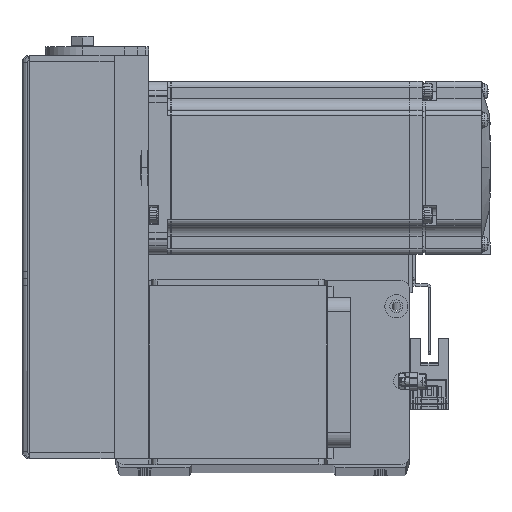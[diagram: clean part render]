
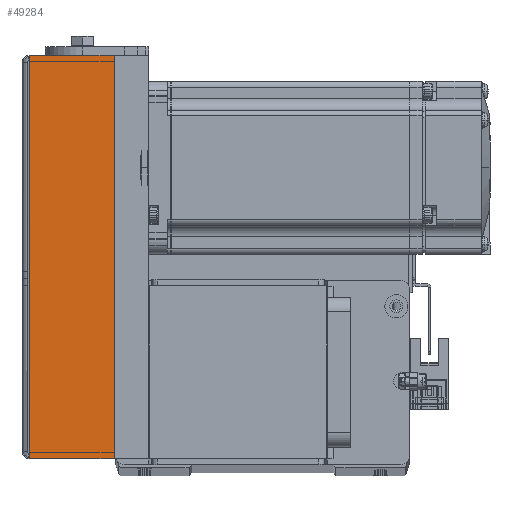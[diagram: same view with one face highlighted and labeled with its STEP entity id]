
A CAD part, top view. The second image highlights one B-rep face of the part: STEP entity #49284.
In plain terms, the highlighted planar face has unit normal (0, 0, 1).
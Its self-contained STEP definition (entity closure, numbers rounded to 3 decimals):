
#986 = VECTOR ( 'NONE', #38560, 1000. ) ;
#2824 = CARTESIAN_POINT ( 'NONE',  ( -70., 0., 31. ) ) ;
#4136 = LINE ( 'NONE', #36290, #4525 ) ;
#4525 = VECTOR ( 'NONE', #16264, 1000. ) ;
#4741 = FACE_OUTER_BOUND ( 'NONE', #24643, .T. ) ;
#7594 = LINE ( 'NONE', #23927, #35688 ) ;
#8495 = ORIENTED_EDGE ( 'NONE', *, *, #28728, .F. ) ;
#9259 = VERTEX_POINT ( 'NONE', #38727 ) ;
#11446 = EDGE_CURVE ( 'NONE', #45508, #22104, #33556, .T. ) ;
#11869 = CARTESIAN_POINT ( 'NONE',  ( 0., -30., 31. ) ) ;
#15848 = DIRECTION ( 'NONE',  ( 0., -1., 0. ) ) ;
#16264 = DIRECTION ( 'NONE',  ( 0., 1., 0. ) ) ;
#16876 = PLANE ( 'NONE',  #22251 ) ;
#17039 = ORIENTED_EDGE ( 'NONE', *, *, #26240, .F. ) ;
#19561 = LINE ( 'NONE', #27734, #43990 ) ;
#20568 = DIRECTION ( 'NONE',  ( 0., 0., -1. ) ) ;
#21980 = ORIENTED_EDGE ( 'NONE', *, *, #28709, .T. ) ;
#22104 = VERTEX_POINT ( 'NONE', #2824 ) ;
#22251 = AXIS2_PLACEMENT_3D ( 'NONE', #11869, #20568, #15848 ) ;
#22492 = CARTESIAN_POINT ( 'NONE',  ( 0., 0., 31. ) ) ;
#23927 = CARTESIAN_POINT ( 'NONE',  ( 70., -29.5, 31. ) ) ;
#24643 = EDGE_LOOP ( 'NONE', ( #17039, #21980, #29952, #8495 ) ) ;
#26240 = EDGE_CURVE ( 'NONE', #42400, #9259, #19561, .T. ) ;
#27734 = CARTESIAN_POINT ( 'NONE',  ( -70., -29.5, 31. ) ) ;
#28709 = EDGE_CURVE ( 'NONE', #42400, #45508, #7594, .T. ) ;
#28728 = EDGE_CURVE ( 'NONE', #9259, #22104, #4136, .T. ) ;
#29952 = ORIENTED_EDGE ( 'NONE', *, *, #11446, .T. ) ;
#30545 = CARTESIAN_POINT ( 'NONE',  ( 70., -29.5, 31. ) ) ;
#33556 = LINE ( 'NONE', #22492, #986 ) ;
#35688 = VECTOR ( 'NONE', #44237, 1000. ) ;
#36290 = CARTESIAN_POINT ( 'NONE',  ( -70., -29.5, 31. ) ) ;
#38560 = DIRECTION ( 'NONE',  ( -1., 0., 0. ) ) ;
#38727 = CARTESIAN_POINT ( 'NONE',  ( -70., -29.5, 31. ) ) ;
#42400 = VERTEX_POINT ( 'NONE', #30545 ) ;
#43833 = DIRECTION ( 'NONE',  ( -1., 0., 0. ) ) ;
#43990 = VECTOR ( 'NONE', #43833, 1000. ) ;
#44237 = DIRECTION ( 'NONE',  ( 0., 1., 0. ) ) ;
#45508 = VERTEX_POINT ( 'NONE', #49406 ) ;
#49284 = ADVANCED_FACE ( 'NONE', ( #4741 ), #16876, .F. ) ;
#49406 = CARTESIAN_POINT ( 'NONE',  ( 70., 0., 31. ) ) ;
